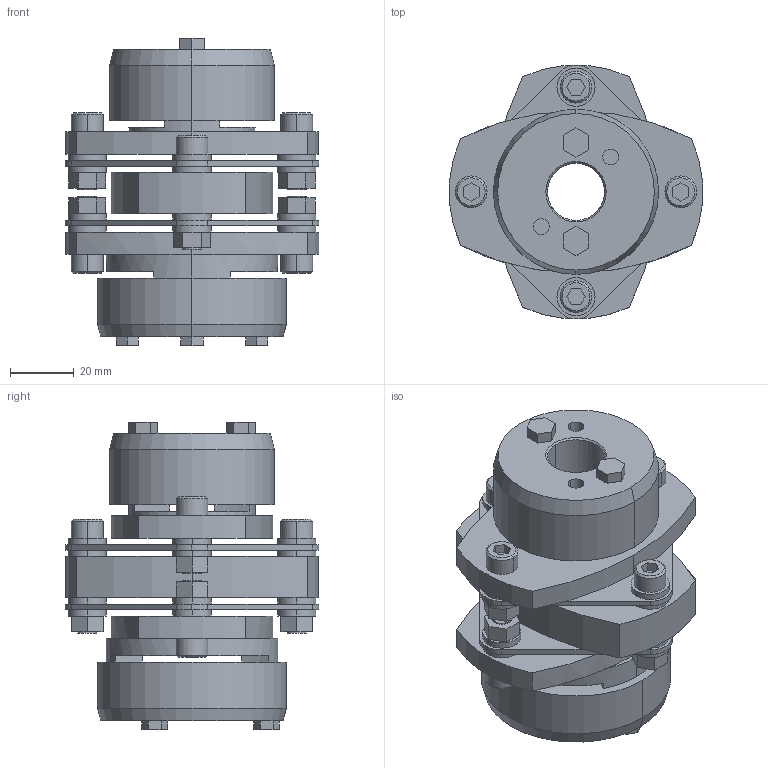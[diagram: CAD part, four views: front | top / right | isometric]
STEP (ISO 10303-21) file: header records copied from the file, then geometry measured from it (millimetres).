
FILE_DESCRIPTION((''),'2;1');
FILE_NAME('LCD-80T7-18×35.stp','2011-09-15T13:25:52',(''),(''),'AutoCAD STEP 2000i','AutoCAD 2000i',', , ');
FILE_SCHEMA(('CONFIG_CONTROL_DESIGN'));
Length unit declared in the file: millimetre
Products named in the file (12): LCD-80T7-17×35; 忣兜1; LC80T7-T035; LC80T7-T032; LC80T7-T030; LC80T7-T028; LC80T7-T024; LC80T7-T022; LC80T7-T019; LC80T7-T017-1; LC80T7-T017; LCD80-ITA
Assembly tree (11 placements, depth 2):
  LCD-80T7-17×35
    忣兜1
    LC80T7-T035
    LC80T7-T032
    LC80T7-T030
    LC80T7-T028
    LC80T7-T024
    LC80T7-T022
    LC80T7-T019
    LC80T7-T017-1
    LC80T7-T017
    LCD80-ITA
Bounding box: 80 x 79.95 x 96.8 mm (x, y, z)
Volume: 174885.4 mm3; surface area: 57334.8 mm2
Topology: 1 solids, 1 shells, 316 faces, 770 edges, 504 vertices
Faces by surface type: plane 172, cylinder 120, cone 24
Entity records: 9619 total; most frequent: DIRECTION 1714, CARTESIAN_POINT 1602, ORIENTED_EDGE 1540, EDGE_CURVE 770, AXIS2_PLACEMENT_3D 616, VERTEX_POINT 504, VECTOR 482, LINE 482
